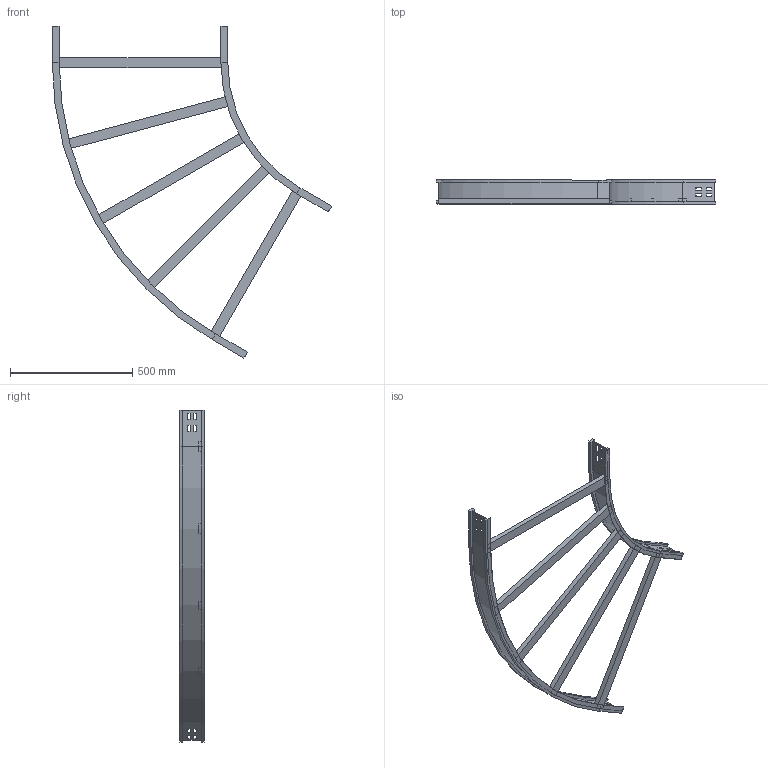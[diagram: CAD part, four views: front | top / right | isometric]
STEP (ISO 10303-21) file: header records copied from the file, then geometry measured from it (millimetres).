
FILE_DESCRIPTION (( 'STEP AP214' ), '1' );
FILE_NAME ('13S6D700.step', '2025-02-21T16:07:11', ( '' ), ( '' ), 'SwSTEP 2.0', 'SolidWorks 2023', '' );
FILE_SCHEMA (( 'AUTOMOTIVE_DESIGN' ));
Length unit declared in the file: millimetre
Products named in the file (4): TRAVERSINO_700; LONGH.INTERNO 60°_H100_R600; LONGH.ESTERNO 60°_H100_R600+700; 13S6D700
Assembly tree (7 placements, depth 2):
  13S6D700
    LONGH.INTERNO 60°_H100_R600
    LONGH.ESTERNO 60°_H100_R600+700
    TRAVERSINO_700  x5
Bounding box: 1143.4 x 100 x 1358.63 mm (x, y, z)
Volume: 4190625.4 mm3; surface area: 1195471.6 mm2
Topology: 7 solids, 7 shells, 170 faces, 420 edges, 264 vertices
Faces by surface type: plane 158, cylinder 12
Entity records: 4493 total; most frequent: CARTESIAN_POINT 760, ORIENTED_EDGE 744, DIRECTION 708, EDGE_CURVE 372, LINE 348, VECTOR 348, VERTEX_POINT 232, AXIS2_PLACEMENT_3D 180
